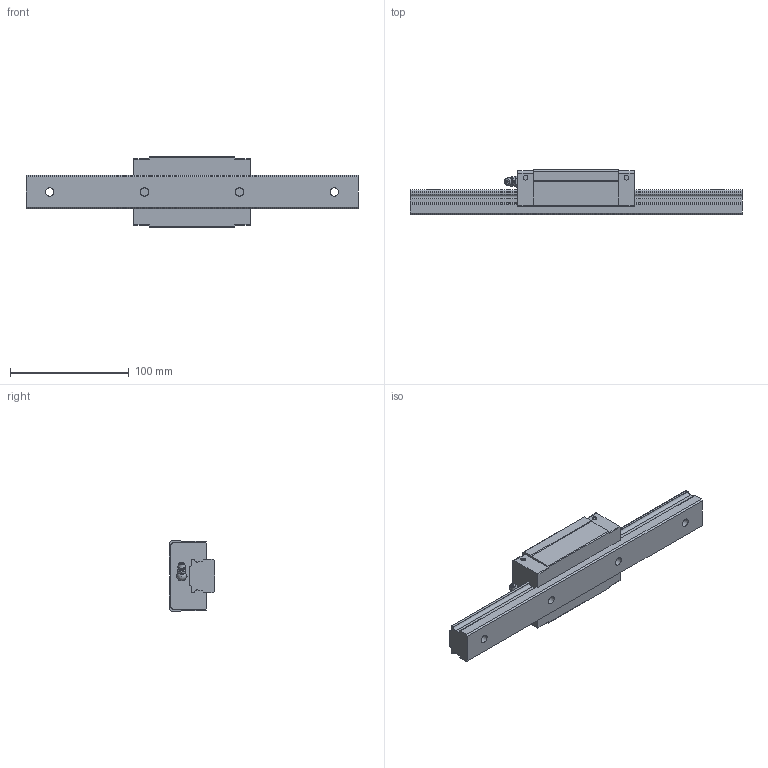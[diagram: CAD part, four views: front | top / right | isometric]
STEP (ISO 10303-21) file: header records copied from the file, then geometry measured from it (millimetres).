
FILE_DESCRIPTION(/* description */ ('STEP AP203'),/* implementation_level */ '2;1');
FILE_NAME(/* name */ 'SVS30R1SS-280L_G20_0_B-M6F_91_0_0_0_1',/* time_stamp */ '2024-05-16T11:53:14+02:00',/* author */ ('License CC BY-ND 4.0'),/* organization */ ('CADENAS'),/* preprocessor_version */ 'ST-DEVELOPER v19.3',/* originating_system */ 'PARTsolutions',/* authorisation */ ' ');
FILE_SCHEMA (('CONFIG_CONTROL_DESIGN'));
Length unit declared in the file: millimetre
Products named in the file (4): SVS30R1SS-280L_G20_0_B-M6F_91_0_0_0_1; SVR 30R28020 R Track; SVR 30R1SSB-M6F1 Slide; B-M6F_grease_nipple_joint1_SVR
Assembly tree (3 placements, depth 2):
  SVS30R1SS-280L_G20_0_B-M6F_91_0_0_0_1
    SVR 30R28020 R Track
    SVR 30R1SSB-M6F1 Slide
    B-M6F_grease_nipple_joint1_SVR
Bounding box: 280 x 38 x 60 mm (x, y, z)
Volume: 285361.5 mm3; surface area: 55989.9 mm2
Topology: 3 solids, 3 shells, 174 faces, 460 edges, 301 vertices
Faces by surface type: plane 92, cylinder 56, cone 21, sphere 3, torus 2
Full cylindrical faces by diameter (mm): 3.9 x4, 4.917 x2, 6 x1, 6.647 x4, 7 x4, 8 x1, 11 x4
Entity records: 5217 total; most frequent: CARTESIAN_POINT 969, DIRECTION 872, ORIENTED_EDGE 804, EDGE_CURVE 402, AXIS2_PLACEMENT_3D 316, VERTEX_POINT 289, LINE 240, VECTOR 240
